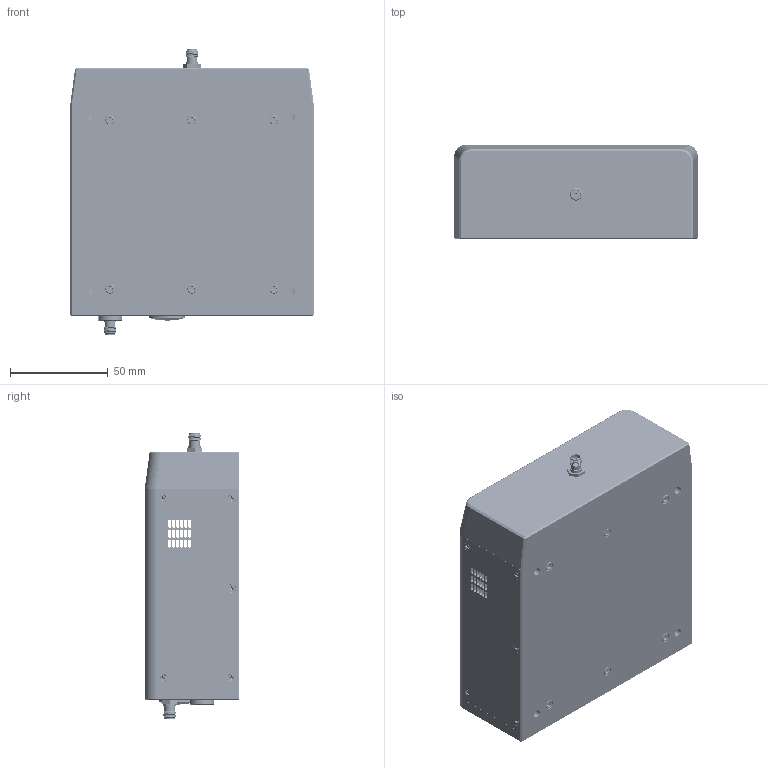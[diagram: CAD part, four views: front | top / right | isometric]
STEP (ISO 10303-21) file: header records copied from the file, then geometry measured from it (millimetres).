
FILE_DESCRIPTION (( 'STEP AP214' ), '1' );
FILE_NAME ('TB-SC-2 Mountable.STEP', '2025-01-27T22:55:37', ( '' ), ( '' ), 'SwSTEP 2.0', 'SolidWorks 2021', '' );
FILE_SCHEMA (( 'AUTOMOTIVE_DESIGN' ));
Length unit declared in the file: inch
Products named in the file (1): TB-SC-2 Mountable
Bounding box: 124.32 x 48.26 x 146.02 mm (x, y, z)
Volume: 257802.6 mm3; surface area: 139402.4 mm2
Topology: 40 solids, 40 shells, 2988 faces, 8086 edges, 5207 vertices
Faces by surface type: cylinder 1363, plane 995, cone 420, bspline 179, torus 28, sphere 3
Entity records: 176238 total; most frequent: CARTESIAN_POINT 67556, ORIENTED_EDGE 16024, DIRECTION 12783, EDGE_CURVE 8012, VERTEX_POINT 5206, AXIS2_PLACEMENT_3D 4702, VECTOR 3379, LINE 3379
